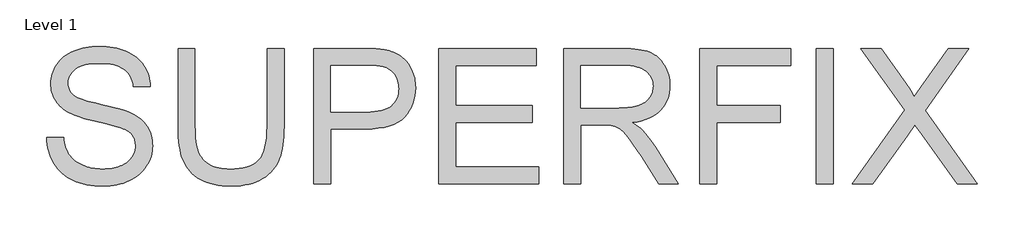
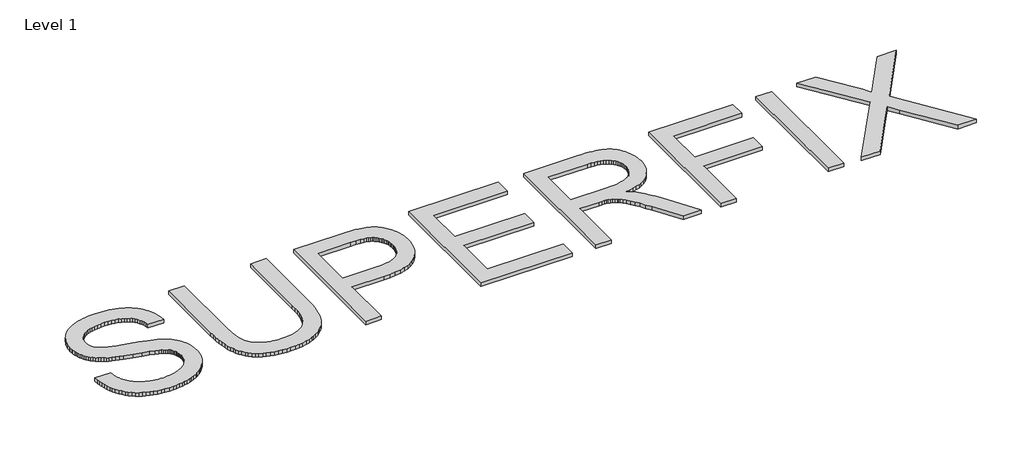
# One storey, part 31 of 32: 1 proxy.
"""IFC4 building model written with IfcOpenShell, lengths in millimetres."""

import ifcopenshell
import ifcopenshell.guid

model = None  # the IFC model being written
_history = None  # IfcOwnerHistory: only IFC2X3 demands one
_inside = {}  # id of a spatial element -> (the spatial element, [elements in it])
_under = {}  # id of a project, library or spatial element -> (it, [spatial elements below it])
_declared = {}  # id of a project -> (the project, [libraries it declares])
_typed = {}  # id of a type object -> (the type object, [elements of that type])
_made_of = {}  # id of a material, layer set ... -> (it, [elements and type objects made of it])


def new_model(schema):
    """Start an empty IFC model of exactly this schema.

    Asked for "IFC4X3", IfcOpenShell would pick the latest addendum, in which some entities
    have other attributes; the version numbers below select the first issue.
    IFC2X3 requires an IfcOwnerHistory on every rooted entity: one is made here for all.
    """
    global model, _history
    if schema == "IFC4X3":
        model = ifcopenshell.file(schema_version=(4, 3, 0, 0))
    else:
        model = ifcopenshell.file(schema=schema)
    _inside.clear()
    _under.clear()
    _declared.clear()
    _typed.clear()
    _made_of.clear()
    _history = None
    if model.schema == "IFC2X3":
        org = make("IfcOrganization", Name="unknown")
        user = make(
            "IfcPersonAndOrganization",
            ThePerson=make("IfcPerson", FamilyName="unknown"),
            TheOrganization=org,
        )
        app = make(
            "IfcApplication",
            ApplicationDeveloper=org,
            Version="unknown",
            ApplicationFullName="unknown",
            ApplicationIdentifier="unknown",
        )
        _history = make(
            "IfcOwnerHistory",
            OwningUser=user,
            OwningApplication=app,
            ChangeAction="ADDED",
            CreationDate=0,
        )
    return model


def make(cls, **values):
    """One entity of the class cls with the attributes given. An attribute that is None is left unset."""
    return model.create_entity(
        cls, **{name: value for name, value in values.items() if value is not None}
    )


def rooted(cls, **values):
    """An entity with a GlobalId (a new one), such as an element, a storey or a relation."""
    return make(cls, GlobalId=ifcopenshell.guid.new(), OwnerHistory=_history, **values)


def si_unit(unit_type, name, prefix=None):
    """IfcSIUnit, for example si_unit("LENGTHUNIT", "METRE", prefix="MILLI")."""
    return make("IfcSIUnit", UnitType=unit_type, Prefix=prefix, Name=name)


def assignment(units):
    """IfcUnitAssignment: the units of a project."""
    return None if units is None else make("IfcUnitAssignment", Units=units)


def point(xyz):
    """IfcCartesianPoint."""
    return None if xyz is None else make("IfcCartesianPoint", Coordinates=xyz)


def direction(xyz):
    """IfcDirection."""
    return None if xyz is None else make("IfcDirection", DirectionRatios=xyz)


def frame(location, z_axis=None, x_axis=None):
    """IfcAxis2Placement3D, a coordinate frame: its origin and axes. An axis left out is left unset."""
    return make(
        "IfcAxis2Placement3D",
        Location=point(location),
        Axis=direction(z_axis),
        RefDirection=direction(x_axis),
    )


def origin():
    """The frame at (0, 0, 0) with its axes left unset."""
    return frame((0.0, 0.0, 0.0))


def origin_with_axes():
    """The frame at (0, 0, 0) with the z axis (0, 0, 1) and the x axis (1, 0, 0) written out."""
    return frame((0.0, 0.0, 0.0), z_axis=(0.0, 0.0, 1.0), x_axis=(1.0, 0.0, 0.0))


def place(relative_to, where):
    """IfcLocalPlacement: puts the frame where relative to a parent placement (None: the world)."""
    return make(
        "IfcLocalPlacement", PlacementRelTo=relative_to, RelativePlacement=where
    )


def context(
    kind, dimensions, precision=None, world=None, true_north=None, identifier=None
):
    """IfcGeometricRepresentationContext, for example the 3D "Model" context."""
    return make(
        "IfcGeometricRepresentationContext",
        ContextIdentifier=identifier,
        ContextType=kind,
        CoordinateSpaceDimension=dimensions,
        Precision=precision,
        WorldCoordinateSystem=world,
        TrueNorth=true_north,
    )


def project(units=None, contexts=None):
    """IfcProject with its units and contexts."""
    return rooted(
        "IfcProject",
        Name="project",
        RepresentationContexts=contexts,
        UnitsInContext=assignment(units),
    )


def spatial(cls, under=None, at=None, **own):
    """A site, building, storey or space (cls), placed at a placement, below another one or the project."""
    s = rooted(cls, ObjectPlacement=at, **own)
    if under is not None:
        _under.setdefault(under.id(), (under, []))[1].append(s)
    return s


def polyline(points):
    """IfcPolyline through the points."""
    return make("IfcPolyline", Points=[point(p) for p in points])


def outline(outer, holes=None, kind="AREA"):
    """IfcArbitraryClosedProfileDef: a profile drawn as a closed curve; with holes, ...WithVoids."""
    if holes is None:
        return make("IfcArbitraryClosedProfileDef", ProfileType=kind, OuterCurve=outer)
    return make(
        "IfcArbitraryProfileDefWithVoids",
        ProfileType=kind,
        OuterCurve=outer,
        InnerCurves=holes,
    )


def extrude(swept, where, along, depth):
    """IfcExtrudedAreaSolid: the profile swept, set in the frame where, extruded along a direction by depth."""
    return make(
        "IfcExtrudedAreaSolid",
        SweptArea=swept,
        Position=where,
        ExtrudedDirection=direction(along),
        Depth=depth,
    )


def shape(context_of_items, identifier, shape_type, items):
    """IfcShapeRepresentation: the items that make up one representation, for example the "Body"."""
    return make(
        "IfcShapeRepresentation",
        ContextOfItems=context_of_items,
        RepresentationIdentifier=identifier,
        RepresentationType=shape_type,
        Items=items,
    )


def made_of(thing, what):
    """Note that an element or type object is made of a material, layer set ...; save() writes the relation."""
    if what is not None:
        _made_of.setdefault(what.id(), (what, []))[1].append(thing)
    return thing


def element(
    cls,
    number,
    at=None,
    inside=None,
    cuts=None,
    type_object=None,
    material=None,
    context=None,
    identifier="Body",
    shape_type=None,
    held_by="IfcProductDefinitionShape",
    body=None,
    shapes=None,
    **own,
):
    """One element of the class cls, such as IfcWall. Its Tag is "e" and its number.

    at: its placement. inside: the storey or other place that contains it. cuts: it is an
    opening in that element (IfcRelVoidsElement). A single representation is given by context,
    identifier, shape_type and body (its items); several are given by shapes. held_by: the class
    of the entity that holds the representations. save() writes the other relations.
    """
    e = rooted(cls, Tag="e%d" % number, ObjectPlacement=at, **own)
    if body is not None:
        shapes = [shape(context, identifier, shape_type, body)]
    if shapes is not None:
        e.Representation = make(held_by, Representations=shapes)
    if inside is not None:
        _inside.setdefault(inside.id(), (inside, []))[1].append(e)
    if cuts is not None:
        rooted(
            "IfcRelVoidsElement", RelatingBuildingElement=cuts, RelatedOpeningElement=e
        )
    if type_object is not None:
        _typed.setdefault(type_object.id(), (type_object, []))[1].append(e)
    return made_of(e, material)


def aggregate(whole, parts):
    """IfcRelAggregates: a whole, such as a stair, and the parts it consists of."""
    return rooted("IfcRelAggregates", RelatingObject=whole, RelatedObjects=parts)


def save(model, path):
    """Write the relations noted so far, then the file.

    IfcRelAggregates (storeys below a building ...), IfcRelContainedInSpatialStructure (elements
    in a storey), IfcRelDefinesByType, IfcRelAssociatesMaterial and IfcRelDeclares: one each for
    every whole, place, type object, material and project.
    """
    for whole, parts in _under.values():
        aggregate(whole, parts)
    for where, things in _inside.values():
        rooted(
            "IfcRelContainedInSpatialStructure",
            RelatedElements=things,
            RelatingStructure=where,
        )
    for kind, things in _typed.values():
        rooted("IfcRelDefinesByType", RelatedObjects=things, RelatingType=kind)
    for what, things in _made_of.values():
        rooted("IfcRelAssociatesMaterial", RelatedObjects=things, RelatingMaterial=what)
    for by, libraries in _declared.values():
        rooted("IfcRelDeclares", RelatingContext=by, RelatedDefinitions=libraries)
    model.write(path)


model = new_model("IFC4")

# Units and contexts
model_context = context("Model", 3, world=origin())
ifc_project = project(units=[si_unit("LENGTHUNIT", "METRE", prefix="MILLI")], contexts=[model_context])

# Site, building, storey
site = spatial("IfcSite", under=ifc_project)
building = spatial("IfcBuilding", under=site)
storey = spatial("IfcBuildingStorey", under=building, Name="Level 1", Elevation=0.0)

# Proxy
placement = place(None, origin())
element("IfcBuildingElementProxy", 1, Name="5000mm Arial", ObjectType="5000mm Arial", at=placement, inside=storey, context=model_context, shape_type="SweptSolid", body=[
    extrude(outline(polyline([(-49982.6829169, 51221.6579568), (-49354.8309785, 51221.6579568), (-49342.2808375, 51128.1450361), (-49326.0901976, 51038.9049115), (-49306.2590588, 50953.9375829), (-49282.7874211, 50873.2430505), (-49255.6752845, 50796.8213142), (-49224.922649, 50724.6723739), (-49190.5295145, 50656.7962298), (-49152.4958812, 50593.1928817), (-49109.9020439, 50533.2012917), (-49061.8282978, 50476.160422), (-49008.2746427, 50422.0702724), (-48949.2410788, 50370.9308429), (-48884.727606, 50322.7421337), (-48814.7342243, 50277.5041446), (-48739.2609338, 50235.2168757), (-48658.3077343, 50195.8803269), (-48573.311665, 50160.3854625), (-48485.7097649, 50129.6232467), (-48395.502034, 50103.5936795), (-48302.6884723, 50082.2967609), (-48207.2690798, 50065.7324908), (-48109.2438565, 50053.9008694), (-48008.6128024, 50046.8018965), (-47905.3759175, 50044.4355722), (-47813.8461107, 50046.2270809), (-47725.0370978, 50051.6016069), (-47638.9488788, 50060.5591503), (-47555.5814538, 50073.099711), (-47474.9348226, 50089.2232891), (-47397.0089854, 50108.9298845), (-47321.8039421, 50132.2194973), (-47249.3196928, 50159.0921274), (-47180.4663621, 50189.0975026), (-47116.1540747, 50221.7853507), (-47056.3828308, 50257.1556717), (-47001.1526302, 50295.2084656), (-46950.463473, 50335.9437324), (-46904.3153592, 50379.361472), (-46862.7082887, 50425.4616845), (-46825.6422617, 50474.2443699), (-46793.0214754, 50524.6844403), (-46764.7501273, 50575.756808), (-46740.8282173, 50627.4614727), (-46721.2557455, 50679.7984347), (-46706.0327119, 50732.7676939), (-46695.1591165, 50786.3692502), (-46688.6349592, 50840.6031037), (-46686.4602402, 50895.4692544), (-46688.0888844, 50950.6802944), (-46692.9748172, 51004.1094061), (-46701.1180384, 51055.7565893), (-46712.5185481, 51105.6218441), (-46727.1763464, 51153.7051705), (-46745.0914331, 51200.0065685), (-46766.2638084, 51244.5260381), (-46790.6934721, 51287.2635793), (-46820.1623528, 51328.3341551), (-46856.4523788, 51367.8527288), (-46899.5635501, 51405.8193004), (-46949.4958667, 51442.2338697), (-47006.2493287, 51477.0964369), (-47069.823936, 51510.407002), (-47140.2196886, 51542.1655648), (-47217.4365865, 51572.3721255), (-47351.8284779, 51616.3263597), (-47548.9902347, 51670.9338434), (-47808.9218569, 51736.1945765), (-48131.6233445, 51812.108559), (-48458.6934309, 51892.3911403), (-48601.9662235, 51931.8139114), (-48731.7308492, 51970.7576695), (-48847.9873078, 52009.2224145), (-48950.7355994, 52047.2081466), (-49039.975724, 52084.7148656), (-49115.7076816, 52121.7425716), (-49202.3802965, 52170.3528124), (-49283.3622367, 52221.7604891), (-49358.6535024, 52275.9656018), (-49428.2540934, 52332.9681505), (-49492.1640098, 52392.7681353), (-49550.3832516, 52455.365556), (-49602.9118187, 52520.7604128), (-49649.7497113, 52588.9527055), (-49690.9927319, 52659.5975449), (-49726.736683, 52732.3500416), (-49756.9815647, 52807.2101955), (-49781.7273771, 52884.1780067), (-49800.97412, 52963.2534751), (-49814.7217935, 53044.4366008), (-49822.9703976, 53127.7273838), (-49825.7199323, 53213.125824), (-49822.3189399, 53307.386005), (-49812.1159627, 53400.0941838), (-49795.1110007, 53491.2503605), (-49771.3040539, 53580.854535), (-49740.6951222, 53668.9067074), (-49703.2842058, 53755.4068775), (-49659.0713046, 53840.3550455), (-49608.0564185, 53923.7512114), (-49550.507795, 54003.8805084), (-49486.6936812, 54079.0280702), (-49416.6140771, 54149.1938965), (-49340.2689829, 54214.3779875), (-49257.6583984, 54274.5803432), (-49168.7823237, 54329.8009635), (-49073.6407587, 54380.0398485), (-48972.2337035, 54425.2969981), (-48866.2185431, 54465.3903874), (-48757.2526626, 54500.1379915), (-48645.3360619, 54529.5398103), (-48530.468741, 54553.5958439), (-48412.6506999, 54572.3060923), (-48291.8819387, 54585.6705554), (-48168.1624573, 54593.6892332), (-48041.4922557, 54596.3621259), (-47902.8467288, 54593.5646899), (-47768.3398743, 54585.1723818), (-47637.9716923, 54571.1852018), (-47511.7421827, 54551.6031498), (-47389.6513455, 54526.4262257), (-47271.6991808, 54495.6544297), (-47157.8856886, 54459.2877616), (-47048.2108687, 54417.3262216), (-46943.7093895, 54369.9422542), (-46845.4159189, 54317.3083041), (-46753.330457, 54259.4243714), (-46667.4530037, 54196.2904561), (-46587.7835592, 54127.9065582), (-46514.3221232, 54054.2726776), (-46447.068696, 53975.3888143), (-46386.0232774, 53891.2549684), (-46331.4349543, 53803.0590922), (-46283.5528134, 53711.9891379), (-46242.3768546, 53618.0451055), (-46207.9070781, 53521.226995), (-46180.1434838, 53421.5348064), (-46159.0860717, 53318.9685397), (-46144.7348417, 53213.5281949), (-46137.089794, 53105.2137721), (-46764.9417325, 53105.2137721), (-46782.0329168, 53208.6422622), (-46806.9415936, 53305.5561753), (-46839.6677627, 53395.9555114), (-46880.2114243, 53479.8402705), (-46928.5725782, 53557.2104526), (-46984.7512246, 53628.0660577), (-47048.7473633, 53692.4070858), (-47120.5609945, 53750.233537), (-47200.8244152, 53801.3921269), (-47290.1699227, 53845.7295715), (-47388.5975169, 53883.2458708), (-47496.1071979, 53913.9410248), (-47612.6989656, 53937.8150335), (-47738.3728201, 53954.8678968), (-47873.1287614, 53965.0996148), (-48016.9667894, 53968.5101874), (-48165.9398369, 53965.1379358), (-48304.4512402, 53955.0211809), (-48432.5009992, 53938.1599228), (-48550.0891141, 53914.5541615), (-48657.2155846, 53884.2038969), (-48753.880411, 53847.109129), (-48840.0835931, 53803.2698579), (-48915.8251309, 53752.6860836), (-48981.9289269, 53697.3313396), (-49039.2188835, 53639.1791597), (-49087.6950005, 53578.2295437), (-49127.3572782, 53514.4824917), (-49158.2057163, 53447.9380037), (-49180.240315, 53378.5960798), (-49193.4610742, 53306.4567198), (-49197.8679939, 53231.5199238), (-49194.744829, 53166.7765247), (-49185.3753345, 53104.9838458), (-49169.7595102, 53046.1418871), (-49147.8973562, 52990.2506486), (-49119.7888725, 52937.3101302), (-49085.4340591, 52887.320332), (-49044.832916, 52840.281254), (-48997.9854432, 52796.1928961), (-48939.0476819, 52753.1583669), (-48860.3362633, 52709.8939114), (-48761.8511875, 52666.3995297), (-48643.5924545, 52622.6752217), (-48505.5600642, 52578.7209875), (-48347.7540167, 52534.5368271), (-48170.174312, 52490.1227404), (-47972.82095, 52445.4787274), (-47592.5229374, 52358.6432481), (-47280.5896624, 52277.1727146), (-47150.2598014, 52238.4493025), (-47037.0211247, 52201.0671269), (-46940.8736324, 52165.0261876), (-46861.8173245, 52130.3264849), (-46762.1921978, 52078.3823136), (-46669.3307348, 52023.1042117), (-46583.2329355, 51964.4921792), (-46503.8988001, 51902.5462162), (-46431.3283283, 51837.2663226), (-46365.5215204, 51768.6524984), (-46306.4783762, 51696.7047436), (-46254.1988958, 51621.4230582), (-46208.3573503, 51542.9990475), (-46168.6280109, 51461.6243166), (-46135.0108775, 51377.2988655), (-46107.5059502, 51290.0226942), (-46086.113229, 51199.7958028), (-46070.8327139, 51106.6181912), (-46061.6644048, 51010.4898594), (-46058.6083017, 50911.4108075), (-46062.1242572, 50812.49462), (-46072.6721238, 50715.0154715), (-46090.2519015, 50618.9733621), (-46114.8635902, 50524.3682918), (-46146.5071899, 50431.2002604), (-46185.1827007, 50339.4692681), (-46230.8901225, 50249.1753149), (-46283.6294554, 50160.3184007), (-46342.9695877, 50074.6325527), (-46408.4794076, 49993.8517979), (-46480.158915, 49917.9761364), (-46558.0081102, 49847.0055681), (-46642.0269929, 49780.9400932), (-46732.2155633, 49719.7797115), (-46828.5738213, 49663.524423), (-46931.1017669, 49612.1742279), (-47038.3527809, 49566.3326824), (-47148.8802439, 49526.603343), (-47262.6841559, 49492.9862096), (-47379.7645169, 49465.4812823), (-47500.1213269, 49444.0885611), (-47623.754586, 49428.8080459), (-47750.6642941, 49419.6397368), (-47880.8504512, 49416.5836338), (-48044.8357666, 49419.8792433), (-48202.0190972, 49429.7660719), (-48352.400443, 49446.2441196), (-48495.9798039, 49469.3133864), (-48632.7571801, 49498.9738723), (-48762.7325715, 49535.2255772), (-48885.905978, 49578.0685012), (-49002.2773998, 49627.5026443), (-49112.2108866, 49683.5663276), (-49216.0704885, 49746.297872), (-49313.8562052, 49815.6972775), (-49405.568037, 49891.7645442), (-49491.2059837, 49974.4996721), (-49570.7700455, 50063.9026611), (-49644.2602222, 50159.9735113), (-49711.6765138, 50262.7122227), (-49772.2429194, 50370.5093115), (-49825.1834378, 50481.755294), (-49870.4980689, 50596.4501702), (-49908.1868129, 50714.5939401), (-49938.2496697, 50836.1866037), (-49960.6866393, 50961.228161), (-49975.4977217, 51089.7186121), (-49982.6829169, 51221.6579568)])), origin_with_axes(), (0.0, 0.0, 1.0), 150.0),
    extrude(outline(polyline([(-41820.6077173, 54517.8806336), (-41192.7557789, 54517.8806336), (-41192.7557789, 51620.1967849), (-41195.4190912, 51435.9204782), (-41203.4090283, 51261.3968765), (-41216.7255901, 51096.6259797), (-41235.3687766, 50941.607788), (-41259.3385879, 50796.3423012), (-41288.6350238, 50660.8295193), (-41323.2580845, 50535.0694425), (-41363.2077699, 50419.0620706), (-41410.0935638, 50310.5177215), (-41465.5249499, 50207.146713), (-41529.5019281, 50108.949045), (-41602.0244985, 50015.9247176), (-41683.0926611, 49928.0737307), (-41772.7064158, 49845.3960844), (-41870.8657628, 49767.8917787), (-41977.5707019, 49695.5608135), (-42092.8787148, 49630.175537), (-42216.8472829, 49573.5082973), (-42349.4764064, 49525.5590946), (-42490.7660852, 49486.3279287), (-42640.7163192, 49455.8147997), (-42799.3271086, 49434.0197075), (-42966.5984533, 49420.9426522), (-43142.5303533, 49416.5836338), (-43313.8924691, 49420.3774169), (-43477.2646479, 49431.7587661), (-43632.6468895, 49450.7276815), (-43780.0391941, 49477.284163), (-43919.4415616, 49511.4282107), (-44050.853992, 49553.1598245), (-44174.2764853, 49602.4790045), (-44289.7090416, 49659.3857506), (-44397.161241, 49723.4872722), (-44496.6426639, 49794.3907786), (-44588.1533102, 49872.0962698), (-44671.6931799, 49956.6037459), (-44747.2622731, 50047.9132067), (-44814.8605897, 50146.0246523), (-44874.4881297, 50250.9380828), (-44926.1448932, 50362.653498), (-44970.8368075, 50483.0294686), (-45009.5697999, 50613.924565), (-45042.3438703, 50755.3387871), (-45069.1590189, 50907.2721351), (-45090.0152455, 51069.7246088), (-45104.9125503, 51242.6962084), (-45113.8509331, 51426.1869337), (-45116.8303941, 51620.1967849), (-45116.8303941, 54517.8806336), (-44488.9784556, 54517.8806336), (-44488.9784556, 51642.2697046), (-44487.0432431, 51485.1438556), (-44481.2376053, 51338.7287375), (-44471.5615424, 51203.0243505), (-44458.0150544, 51078.0306945), (-44440.5981412, 50963.7477695), (-44419.3108028, 50860.1755755), (-44394.1530393, 50767.3141125), (-44365.1248506, 50685.1633805), (-44331.3831738, 50610.5618936), (-44292.0849461, 50540.3481659), (-44247.2301674, 50474.5221975), (-44196.8188378, 50413.0839882), (-44140.8509572, 50356.0335382), (-44079.3265256, 50303.3708474), (-44012.245543, 50255.0959158), (-43939.6080095, 50211.2087434), (-43862.0845432, 50172.1212814), (-43780.3457624, 50138.245481), (-43694.3916671, 50109.5813422), (-43604.2222572, 50086.128865), (-43509.8375328, 50067.8880494), (-43411.2374939, 50054.8588954), (-43308.4221405, 50047.041403), (-43201.3914725, 50044.4355722), (-43021.68495, 50049.5897523), (-42855.3524708, 50065.0522924), (-42702.394035, 50090.8231925), (-42562.8096426, 50126.9024528), (-42436.5992935, 50173.2900731), (-42323.7629878, 50229.9860535), (-42224.3007254, 50296.990394), (-42138.2125065, 50374.3030946), (-42063.773884, 50466.2735934), (-41999.2604112, 50577.2513286), (-41944.6720881, 50707.2363002), (-41900.0089146, 50856.2285082), (-41865.2708908, 51024.2279527), (-41840.4580166, 51211.2346336), (-41825.5702921, 51417.2485509), (-41820.6077173, 51642.2697046), (-41820.6077173, 54517.8806336)])), origin_with_axes(), (0.0, 0.0, 1.0), 150.0),
    extrude(outline(polyline([(-40094.0148866, 49495.0651261), (-40094.0148866, 54517.8806336), (-38232.531991, 54517.8806336), (-38001.2261865, 54514.8915924), (-37799.0443733, 54505.9244687), (-37625.9865514, 54490.9792627), (-37482.0527208, 54470.0559742), (-37392.8509173, 54452.9743701), (-37307.3470942, 54432.3863907), (-37225.5412515, 54408.2920361), (-37147.4333894, 54380.6913062), (-37073.0235077, 54349.584201), (-37002.3116065, 54314.9707206), (-36935.2976858, 54276.8508649), (-36871.9817455, 54235.2246339), (-36812.0188963, 54189.6800765), (-36755.0642489, 54139.8052414), (-36701.1178032, 54085.6001287), (-36650.1795592, 54027.0647383), (-36602.249517, 53964.1990703), (-36557.3276765, 53897.0031246), (-36515.4140377, 53825.4769013), (-36476.5086007, 53749.6204003), (-36441.444848, 53670.6503147), (-36411.0562624, 53589.7833376), (-36385.3428438, 53507.019469), (-36364.3045922, 53422.3587088), (-36347.9415076, 53335.801057), (-36336.25359, 53247.3465138), (-36329.2408395, 53156.995079), (-36326.903256, 53064.7467526), (-36333.2166475, 52907.4963602), (-36352.1568221, 52756.4156554), (-36383.7237798, 52611.5046382), (-36427.9175205, 52472.7633087), (-36484.7380443, 52340.1916668), (-36554.1853511, 52213.7897125), (-36636.259441, 52093.5574459), (-36730.960314, 51979.4948668), (-36842.1392347, 51875.4532401), (-36973.6474677, 51785.2838302), (-37125.4850131, 51708.9866373), (-37297.6518708, 51646.5616612), (-37490.1480408, 51598.0089021), (-37702.9735231, 51563.3283598), (-37936.1283178, 51542.5200344), (-38189.6124249, 51535.583926), (-39466.1629482, 51535.583926), (-39466.1629482, 49495.0651261), (-40094.0148866, 49495.0651261)]), holes=[polyline([(-39466.1629482, 52163.4358644), (-38152.8242254, 52163.4358644), (-37995.9378828, 52167.0380423), (-37850.854421, 52177.8445759), (-37717.5738398, 52195.8554653), (-37596.0961393, 52221.0707103), (-37486.4213195, 52253.4903112), (-37388.5493804, 52293.1142677), (-37302.4803219, 52339.94258), (-37228.2141442, 52393.9752481), (-37164.1222028, 52454.5416536), (-37108.5758536, 52520.9711785), (-37061.5750967, 52593.2638227), (-37023.1199319, 52671.4195861), (-36993.2103592, 52755.4384689), (-36971.8463788, 52845.3204709), (-36959.0279905, 52941.0655923), (-36954.7551944, 53042.6738329), (-36957.2748029, 53117.3232211), (-36964.8336282, 53189.2134943), (-36977.4316705, 53258.3446526), (-36995.0689297, 53324.7166959), (-37017.7454058, 53388.3296242), (-37045.4610988, 53449.1834376), (-37078.2160088, 53507.278136), (-37116.0101356, 53562.6137194), (-37157.9046139, 53614.2704829), (-37202.960578, 53661.3287215), (-37251.1780281, 53703.7884351), (-37302.556964, 53741.6496237), (-37357.0973859, 53774.9122875), (-37414.7992936, 53803.5764263), (-37475.6626872, 53827.6420401), (-37539.6875667, 53847.109129), (-37642.8478096, 53865.8864392), (-37781.8765469, 53879.2988036), (-37956.7737788, 53887.3462222), (-38167.5395052, 53890.0286951), (-39466.1629482, 53890.0286951), (-39466.1629482, 52163.4358644)])]), origin_with_axes(), (0.0, 0.0, 1.0), 150.0),
    extrude(outline(polyline([(-35463.6068406, 49495.0651261), (-35463.6068406, 54517.8806336), (-31853.4581946, 54517.8806336), (-31853.4581946, 53890.0286951), (-34835.7549022, 53890.0286951), (-34835.7549022, 52398.8803413), (-32010.4211792, 52398.8803413), (-32010.4211792, 51771.0284029), (-34835.7549022, 51771.0284029), (-34835.7549022, 50122.9170645), (-31774.9767023, 50122.9170645), (-31774.9767023, 49495.0651261), (-35463.6068406, 49495.0651261)])), origin_with_axes(), (0.0, 0.0, 1.0), 150.0),
    extrude(outline(polyline([(-30833.1987947, 49495.0651261), (-30833.1987947, 54517.8806336), (-28668.8263897, 54517.8806336), (-28508.5390548, 54515.763396), (-28358.157709, 54509.4116835), (-28217.6823523, 54498.8254958), (-28087.1129848, 54484.0048332), (-27966.4496065, 54464.9496955), (-27855.6922173, 54441.6600827), (-27754.8408172, 54414.1359949), (-27663.8954062, 54382.377432), (-27580.0681287, 54345.2443431), (-27500.5711288, 54301.5966772), (-27425.4044065, 54251.4344344), (-27354.5679619, 54194.7576145), (-27288.061795, 54131.5662176), (-27225.8859057, 54061.8602437), (-27168.0402941, 53985.6396928), (-27114.5249601, 53902.904565), (-27066.3841521, 53815.7912581), (-27024.6621186, 53726.4361704), (-26989.3588594, 53634.8393018), (-26960.4743746, 53541.0006522), (-26938.0086642, 53444.9202217), (-26921.9617282, 53346.5980104), (-26912.3335667, 53246.0340181), (-26909.1241795, 53143.2282449), (-26914.4412239, 53011.5954685), (-26930.3923573, 52885.2509958), (-26956.9775796, 52764.1948268), (-26994.1968908, 52648.4269614), (-27042.050291, 52537.9473997), (-27100.5377801, 52432.7561417), (-27169.6593581, 52332.8531874), (-27249.415025, 52238.2385368), (-27340.2837939, 52150.464192), (-27442.7446777, 52071.0821552), (-27556.7976764, 52000.0924265), (-27682.4427901, 51937.4950057), (-27819.6800188, 51883.289893), (-27968.5093624, 51837.4770883), (-28128.930821, 51800.0565916), (-28300.9443945, 51771.0284029), (-28190.3498697, 51703.2001601), (-28094.0107723, 51635.8317697), (-28011.9271021, 51568.9232318), (-27944.0988592, 51502.4745464), (-27814.8036663, 51354.4786855), (-27686.8880309, 51197.4390588), (-27560.351953, 51031.3556664), (-27435.1954326, 50856.2285082), (-26597.6507569, 49495.0651261), (-27327.2833806, 49495.0651261), (-27980.8870587, 50536.1711724), (-28117.999744, 50748.009888), (-28242.3898436, 50933.4837272), (-28354.0573576, 51092.5926901), (-28453.0022859, 51225.3367767), (-28543.1716957, 51335.3564859), (-28628.5126544, 51426.2923166), (-28709.0251619, 51498.1442688), (-28747.4707464, 51526.9137904), (-28784.7092182, 51550.9123425), (-28858.3239383, 51590.8045463), (-28932.6284371, 51624.028889), (-29007.6227146, 51650.5853705), (-29083.3067709, 51670.4739909), (-29147.9160464, 51680.1308933), (-29230.1530007, 51687.0286807), (-29330.017634, 51691.1673531), (-29447.5099462, 51692.5469106), (-30205.3468562, 51692.5469106), (-30205.3468562, 49495.0651261), (-30833.1987947, 49495.0651261)]), holes=[polyline([(-30205.3468562, 52320.398849), (-28800.0376347, 52320.398849), (-28586.9343247, 52325.9554), (-28488.8612001, 52332.9010887), (-28396.4404291, 52342.6250529), (-28309.6720117, 52355.1272926), (-28228.5559478, 52370.4078078), (-28153.0922375, 52388.4665984), (-28083.2808807, 52409.3036645), (-28018.3075554, 52433.1968337), (-27957.3579395, 52460.4239335), (-27900.4320328, 52490.9849638), (-27847.5298355, 52524.8799247), (-27798.6513475, 52562.1088162), (-27753.7965688, 52602.6716383), (-27712.9654994, 52646.5683909), (-27676.1581394, 52693.7990741), (-27643.5373531, 52743.2427975), (-27615.266005, 52793.7786705), (-27591.344095, 52845.4066933), (-27571.7716233, 52898.1268656), (-27556.5485897, 52951.9391877), (-27545.6749942, 53006.8436594), (-27539.150837, 53062.8402808), (-27536.9761179, 53119.9290519), (-27541.1243706, 53202.0702036), (-27553.5691287, 53280.4942144), (-27574.3103922, 53355.2010841), (-27603.3481612, 53426.1908129), (-27640.6824355, 53493.4634006), (-27686.3132153, 53557.0188474), (-27740.2405005, 53616.8571532), (-27802.4642911, 53672.978318), (-27873.6552053, 53723.8495001), (-27954.4838614, 53767.937858), (-28044.9502593, 53805.2433916), (-28145.0543991, 53835.7661008), (-28254.7962807, 53859.5059858), (-28374.1759042, 53876.4630466), (-28503.1932695, 53886.637283), (-28641.8483767, 53890.0286951), (-30205.3468562, 53890.0286951), (-30205.3468562, 52320.398849)])]), origin_with_axes(), (0.0, 0.0, 1.0), 150.0),
    extrude(outline(polyline([(-25810.3832872, 49495.0651261), (-25810.3832872, 54517.8806336), (-22435.6791181, 54517.8806336), (-22435.6791181, 53890.0286951), (-25182.5313488, 53890.0286951), (-25182.5313488, 52398.8803413), (-22828.0865796, 52398.8803413), (-22828.0865796, 51771.0284029), (-25182.5313488, 51771.0284029), (-25182.5313488, 49495.0651261), (-25810.3832872, 49495.0651261)])), origin_with_axes(), (0.0, 0.0, 1.0), 150.0),
    extrude(outline(polyline([(-21493.9012105, 49495.0651261), (-21493.9012105, 54517.8806336), (-20866.049272, 54517.8806336), (-20866.049272, 49495.0651261), (-21493.9012105, 49495.0651261)])), origin_with_axes(), (0.0, 0.0, 1.0), 150.0),
    extrude(outline(polyline([(-20159.7158413, 49495.0651261), (-18223.4302733, 52232.1071702), (-19845.7898721, 54517.8806336), (-19092.8580553, 54517.8806336), (-18179.2844339, 53231.5199238), (-18054.2811976, 53049.8015466), (-17961.3143518, 52905.6377897), (-17900.3838963, 52799.0286532), (-17881.932315, 52759.8070676), (-17871.4898313, 52729.974137), (-17510.965476, 53240.103837), (-16607.2020412, 54517.8806336), (-15843.2337645, 54517.8806336), (-17465.5933633, 52224.7495303), (-15529.3077953, 49495.0651261), (-16282.2396121, 49495.0651261), (-17572.2791419, 51314.8547289), (-17840.8329983, 51692.5469106), (-18136.3648678, 51278.0665294), (-19395.7475646, 49495.0651261), (-20159.7158413, 49495.0651261)])), origin_with_axes(), (0.0, 0.0, 1.0), 150.0),
])

save(model, "model.ifc")
